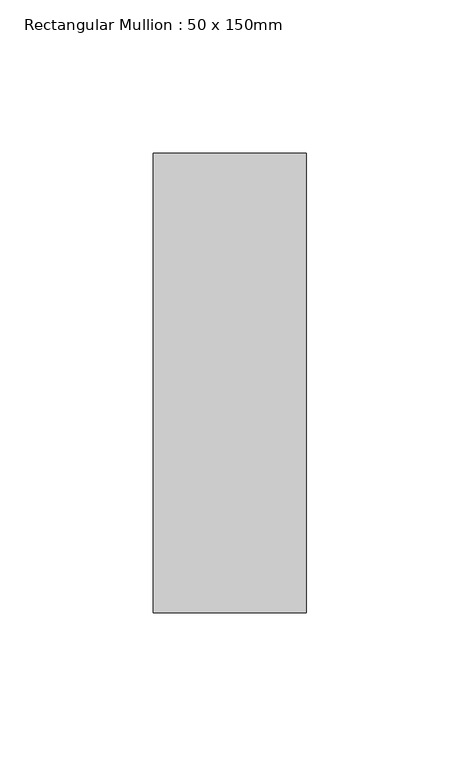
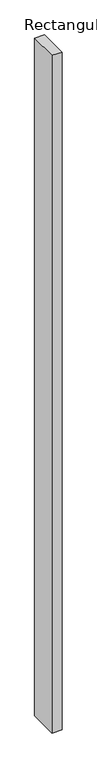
"""IFC4 building model written with IfcOpenShell, lengths in millimetres: member geometry, Rectangular Mullion : 50 x 150mm."""

import ifcopenshell
import ifcopenshell.guid

model = None  # the IFC model being written
_history = None  # IfcOwnerHistory: only IFC2X3 demands one
_inside = {}  # id of a spatial element -> (the spatial element, [elements in it])
_under = {}  # id of a project, library or spatial element -> (it, [spatial elements below it])
_declared = {}  # id of a project -> (the project, [libraries it declares])
_typed = {}  # id of a type object -> (the type object, [elements of that type])
_made_of = {}  # id of a material, layer set ... -> (it, [elements and type objects made of it])


def new_model(schema):
    """Start an empty IFC model of exactly this schema.

    Asked for "IFC4X3", IfcOpenShell would pick the latest addendum, in which some entities
    have other attributes; the version numbers below select the first issue.
    IFC2X3 requires an IfcOwnerHistory on every rooted entity: one is made here for all.
    """
    global model, _history
    if schema == "IFC4X3":
        model = ifcopenshell.file(schema_version=(4, 3, 0, 0))
    else:
        model = ifcopenshell.file(schema=schema)
    _inside.clear()
    _under.clear()
    _declared.clear()
    _typed.clear()
    _made_of.clear()
    _history = None
    if model.schema == "IFC2X3":
        org = make("IfcOrganization", Name="unknown")
        user = make(
            "IfcPersonAndOrganization",
            ThePerson=make("IfcPerson", FamilyName="unknown"),
            TheOrganization=org,
        )
        app = make(
            "IfcApplication",
            ApplicationDeveloper=org,
            Version="unknown",
            ApplicationFullName="unknown",
            ApplicationIdentifier="unknown",
        )
        _history = make(
            "IfcOwnerHistory",
            OwningUser=user,
            OwningApplication=app,
            ChangeAction="ADDED",
            CreationDate=0,
        )
    return model


def make(cls, **values):
    """One entity of the class cls with the attributes given. An attribute that is None is left unset."""
    return model.create_entity(
        cls, **{name: value for name, value in values.items() if value is not None}
    )


def rooted(cls, **values):
    """An entity with a GlobalId (a new one), such as an element, a storey or a relation."""
    return make(cls, GlobalId=ifcopenshell.guid.new(), OwnerHistory=_history, **values)


def si_unit(unit_type, name, prefix=None):
    """IfcSIUnit, for example si_unit("LENGTHUNIT", "METRE", prefix="MILLI")."""
    return make("IfcSIUnit", UnitType=unit_type, Prefix=prefix, Name=name)


def assignment(units):
    """IfcUnitAssignment: the units of a project."""
    return None if units is None else make("IfcUnitAssignment", Units=units)


def point(xyz):
    """IfcCartesianPoint."""
    return None if xyz is None else make("IfcCartesianPoint", Coordinates=xyz)


def direction(xyz):
    """IfcDirection."""
    return None if xyz is None else make("IfcDirection", DirectionRatios=xyz)


def frame(location, z_axis=None, x_axis=None):
    """IfcAxis2Placement3D, a coordinate frame: its origin and axes. An axis left out is left unset."""
    return make(
        "IfcAxis2Placement3D",
        Location=point(location),
        Axis=direction(z_axis),
        RefDirection=direction(x_axis),
    )


def origin():
    """The frame at (0, 0, 0) with its axes left unset."""
    return frame((0.0, 0.0, 0.0))


def place(relative_to, where):
    """IfcLocalPlacement: puts the frame where relative to a parent placement (None: the world)."""
    return make(
        "IfcLocalPlacement", PlacementRelTo=relative_to, RelativePlacement=where
    )


def context(
    kind, dimensions, precision=None, world=None, true_north=None, identifier=None
):
    """IfcGeometricRepresentationContext, for example the 3D "Model" context."""
    return make(
        "IfcGeometricRepresentationContext",
        ContextIdentifier=identifier,
        ContextType=kind,
        CoordinateSpaceDimension=dimensions,
        Precision=precision,
        WorldCoordinateSystem=world,
        TrueNorth=true_north,
    )


def project(units=None, contexts=None):
    """IfcProject with its units and contexts."""
    return rooted(
        "IfcProject",
        Name="project",
        RepresentationContexts=contexts,
        UnitsInContext=assignment(units),
    )


def spatial(cls, under=None, at=None, **own):
    """A site, building, storey or space (cls), placed at a placement, below another one or the project."""
    s = rooted(cls, ObjectPlacement=at, **own)
    if under is not None:
        _under.setdefault(under.id(), (under, []))[1].append(s)
    return s


def polyline(points):
    """IfcPolyline through the points."""
    return make("IfcPolyline", Points=[point(p) for p in points])


def outline(outer, holes=None, kind="AREA"):
    """IfcArbitraryClosedProfileDef: a profile drawn as a closed curve; with holes, ...WithVoids."""
    if holes is None:
        return make("IfcArbitraryClosedProfileDef", ProfileType=kind, OuterCurve=outer)
    return make(
        "IfcArbitraryProfileDefWithVoids",
        ProfileType=kind,
        OuterCurve=outer,
        InnerCurves=holes,
    )


def extrude(swept, where, along, depth):
    """IfcExtrudedAreaSolid: the profile swept, set in the frame where, extruded along a direction by depth."""
    return make(
        "IfcExtrudedAreaSolid",
        SweptArea=swept,
        Position=where,
        ExtrudedDirection=direction(along),
        Depth=depth,
    )


def shape(context_of_items, identifier, shape_type, items):
    """IfcShapeRepresentation: the items that make up one representation, for example the "Body"."""
    return make(
        "IfcShapeRepresentation",
        ContextOfItems=context_of_items,
        RepresentationIdentifier=identifier,
        RepresentationType=shape_type,
        Items=items,
    )


def source(mapping_origin, context_of_items, identifier, shape_type, items):
    """IfcRepresentationMap: a shape defined once, which mapped items show again and again."""
    return make(
        "IfcRepresentationMap",
        MappingOrigin=mapping_origin,
        MappedRepresentation=shape(context_of_items, identifier, shape_type, items),
    )


def transform(
    local_origin,
    x_axis=None,
    y_axis=None,
    z_axis=None,
    scale=None,
    scale2=None,
    scale3=None,
    uniform=True,
):
    """IfcCartesianTransformationOperator3D, or its non-uniform kind. x_axis, y_axis, z_axis: its Axis1, 2, 3."""
    if uniform:
        return make(
            "IfcCartesianTransformationOperator3D",
            Axis1=direction(x_axis),
            Axis2=direction(y_axis),
            LocalOrigin=point(local_origin),
            Scale=scale,
            Axis3=direction(z_axis),
        )
    return make(
        "IfcCartesianTransformationOperator3DnonUniform",
        Axis1=direction(x_axis),
        Axis2=direction(y_axis),
        LocalOrigin=point(local_origin),
        Scale=scale,
        Axis3=direction(z_axis),
        Scale2=scale2,
        Scale3=scale3,
    )


def mapped(mapping_source, mapping_target):
    """IfcMappedItem: shows the shape of a source again, moved by a transform."""
    return make(
        "IfcMappedItem", MappingSource=mapping_source, MappingTarget=mapping_target
    )


def made_of(thing, what):
    """Note that an element or type object is made of a material, layer set ...; save() writes the relation."""
    if what is not None:
        _made_of.setdefault(what.id(), (what, []))[1].append(thing)
    return thing


def element(
    cls,
    number,
    at=None,
    inside=None,
    cuts=None,
    type_object=None,
    material=None,
    context=None,
    identifier="Body",
    shape_type=None,
    held_by="IfcProductDefinitionShape",
    body=None,
    shapes=None,
    **own,
):
    """One element of the class cls, such as IfcWall. Its Tag is "e" and its number.

    at: its placement. inside: the storey or other place that contains it. cuts: it is an
    opening in that element (IfcRelVoidsElement). A single representation is given by context,
    identifier, shape_type and body (its items); several are given by shapes. held_by: the class
    of the entity that holds the representations. save() writes the other relations.
    """
    e = rooted(cls, Tag="e%d" % number, ObjectPlacement=at, **own)
    if body is not None:
        shapes = [shape(context, identifier, shape_type, body)]
    if shapes is not None:
        e.Representation = make(held_by, Representations=shapes)
    if inside is not None:
        _inside.setdefault(inside.id(), (inside, []))[1].append(e)
    if cuts is not None:
        rooted(
            "IfcRelVoidsElement", RelatingBuildingElement=cuts, RelatedOpeningElement=e
        )
    if type_object is not None:
        _typed.setdefault(type_object.id(), (type_object, []))[1].append(e)
    return made_of(e, material)


def aggregate(whole, parts):
    """IfcRelAggregates: a whole, such as a stair, and the parts it consists of."""
    return rooted("IfcRelAggregates", RelatingObject=whole, RelatedObjects=parts)


def save(model, path):
    """Write the relations noted so far, then the file.

    IfcRelAggregates (storeys below a building ...), IfcRelContainedInSpatialStructure (elements
    in a storey), IfcRelDefinesByType, IfcRelAssociatesMaterial and IfcRelDeclares: one each for
    every whole, place, type object, material and project.
    """
    for whole, parts in _under.values():
        aggregate(whole, parts)
    for where, things in _inside.values():
        rooted(
            "IfcRelContainedInSpatialStructure",
            RelatedElements=things,
            RelatingStructure=where,
        )
    for kind, things in _typed.values():
        rooted("IfcRelDefinesByType", RelatedObjects=things, RelatingType=kind)
    for what, things in _made_of.values():
        rooted("IfcRelAssociatesMaterial", RelatedObjects=things, RelatingMaterial=what)
    for by, libraries in _declared.values():
        rooted("IfcRelDeclares", RelatingContext=by, RelatedDefinitions=libraries)
    model.write(path)


def rectangular_mullion_50_x_150mm_3fe1b35e(model_context):
    return source(origin(), model_context, "Body", "SweptSolid", [
        extrude(outline(polyline([(25.0, 75.0), (25.0, -75.0), (-25.0, -75.0), (-25.0, 75.0), (25.0, 75.0)])), frame((0.0, 0.0, -3588.3715849), z_axis=(0.0, 0.0, 1.0), x_axis=(1.0, 0.0, 0.0)), (0.0, 0.0, 1.0), 3588.3715849),
    ])


if __name__ == "__main__":
    model = new_model("IFC4")
    model_context = context("Model", 3, world=origin())
    ifc_project = project(units=[si_unit("LENGTHUNIT", "METRE", prefix="MILLI")], contexts=[model_context])
    site = spatial("IfcSite", under=ifc_project)
    building = spatial("IfcBuilding", under=site)
    placement = place(None, origin())
    rectangular_mullion_50_x_150mm_shape = rectangular_mullion_50_x_150mm_3fe1b35e(model_context)
    element("IfcMember", 1, ObjectType="Rectangular Mullion : 50 x 150mm", at=placement, inside=building, context=model_context, shape_type="MappedRepresentation", body=[
        mapped(rectangular_mullion_50_x_150mm_shape, transform((0.0, 0.0, 0.0), x_axis=(1.0, 0.0, 0.0), y_axis=(0.0, 1.0, 0.0), z_axis=(0.0, 0.0, 1.0))),
    ])
    save(model, "model.ifc")
